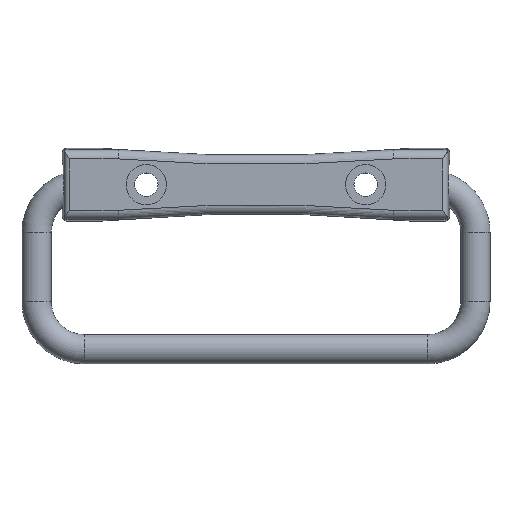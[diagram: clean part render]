
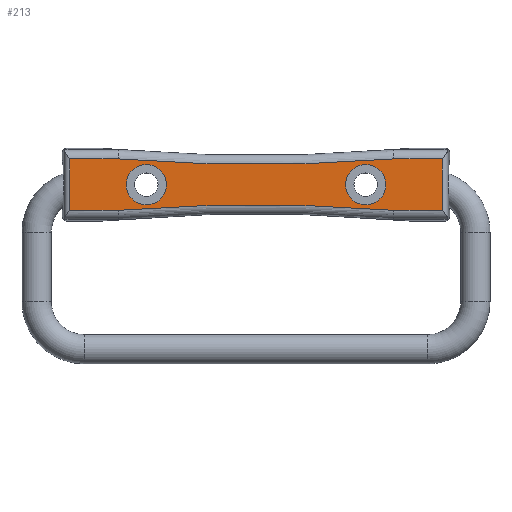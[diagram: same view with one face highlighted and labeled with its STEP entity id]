
A CAD part, top view. The second image highlights one B-rep face of the part: STEP entity #213.
In plain terms, the highlighted planar face has unit normal (0, 0, 1).
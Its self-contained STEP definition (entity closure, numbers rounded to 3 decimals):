
#213 = ADVANCED_FACE( '', ( #324, #325, #326 ), #327, .T. );
#324 = FACE_BOUND( '', #458, .T. );
#325 = FACE_BOUND( '', #459, .T. );
#326 = FACE_OUTER_BOUND( '', #460, .T. );
#327 = PLANE( '', #461 );
#458 = EDGE_LOOP( '', ( #858 ) );
#459 = EDGE_LOOP( '', ( #859 ) );
#460 = EDGE_LOOP( '', ( #860, #861, #862, #863, #864, #865, #866, #867 ) );
#461 = AXIS2_PLACEMENT_3D( '', #868, #869, #870 );
#858 = ORIENTED_EDGE( '', *, *, #1050, .F. );
#859 = ORIENTED_EDGE( '', *, *, #1047, .F. );
#860 = ORIENTED_EDGE( '', *, *, #1034, .F. );
#861 = ORIENTED_EDGE( '', *, *, #1038, .T. );
#862 = ORIENTED_EDGE( '', *, *, #1037, .T. );
#863 = ORIENTED_EDGE( '', *, *, #945, .F. );
#864 = ORIENTED_EDGE( '', *, *, #1031, .T. );
#865 = ORIENTED_EDGE( '', *, *, #1039, .F. );
#866 = ORIENTED_EDGE( '', *, *, #934, .F. );
#867 = ORIENTED_EDGE( '', *, *, #938, .F. );
#868 = CARTESIAN_POINT( '', ( -51.5, -1.5, 16. ) );
#869 = DIRECTION( '', ( 0., 0., 1. ) );
#870 = DIRECTION( '', ( 1., 0., 0. ) );
#934 = EDGE_CURVE( '', #1069, #1063, #1071, .T. );
#938 = EDGE_CURVE( '', #1077, #1069, #1079, .T. );
#945 = EDGE_CURVE( '', #1090, #1082, #1092, .T. );
#1031 = EDGE_CURVE( '', #1090, #1235, #1237, .T. );
#1034 = EDGE_CURVE( '', #1239, #1077, #1241, .T. );
#1037 = EDGE_CURVE( '', #1242, #1082, #1245, .T. );
#1038 = EDGE_CURVE( '', #1239, #1242, #1246, .T. );
#1039 = EDGE_CURVE( '', #1063, #1235, #1247, .T. );
#1047 = EDGE_CURVE( '', #1259, #1259, #1260, .T. );
#1050 = EDGE_CURVE( '', #1265, #1265, #1266, .T. );
#1063 = VERTEX_POINT( '', #1289 );
#1069 = VERTEX_POINT( '', #1307 );
#1071 = LINE( '', #1324, #1325 );
#1077 = VERTEX_POINT( '', #1334 );
#1079 = CIRCLE( '', #1351, 465.75 );
#1082 = VERTEX_POINT( '', #1357 );
#1090 = VERTEX_POINT( '', #1386 );
#1092 = CIRCLE( '', #1403, 465.75 );
#1235 = VERTEX_POINT( '', #1744 );
#1237 = LINE( '', #1757, #1758 );
#1239 = VERTEX_POINT( '', #1761 );
#1241 = LINE( '', #1774, #1775 );
#1242 = VERTEX_POINT( '', #1776 );
#1245 = LINE( '', #1791, #1792 );
#1246 = LINE( '', #1793, #1794 );
#1247 = LINE( '', #1795, #1796 );
#1259 = VERTEX_POINT( '', #1828 );
#1260 = CIRCLE( '', #1829, 5.5 );
#1265 = VERTEX_POINT( '', #1834 );
#1266 = CIRCLE( '', #1835, 5.5 );
#1289 = CARTESIAN_POINT( '', ( -50.993, -17.027, 16. ) );
#1307 = CARTESIAN_POINT( '', ( -37.684, -17.027, 16. ) );
#1324 = CARTESIAN_POINT( '', ( 62.5, -17.027, 16. ) );
#1325 = VECTOR( '', #1862, 1000. );
#1334 = CARTESIAN_POINT( '', ( 37.684, -17.027, 16. ) );
#1351 = AXIS2_PLACEMENT_3D( '', #1866, #1867, #1868 );
#1357 = CARTESIAN_POINT( '', ( 37.684, -2.973, 16. ) );
#1386 = CARTESIAN_POINT( '', ( -37.684, -2.973, 16. ) );
#1403 = AXIS2_PLACEMENT_3D( '', #1872, #1873, #1874 );
#1744 = CARTESIAN_POINT( '', ( -50.993, -2.973, 16. ) );
#1757 = CARTESIAN_POINT( '', ( 62.5, -2.973, 16. ) );
#1758 = VECTOR( '', #2003, 1000. );
#1761 = CARTESIAN_POINT( '', ( 50.993, -17.027, 16. ) );
#1774 = CARTESIAN_POINT( '', ( 62.5, -17.027, 16. ) );
#1775 = VECTOR( '', #2005, 1000. );
#1776 = CARTESIAN_POINT( '', ( 50.993, -2.973, 16. ) );
#1791 = CARTESIAN_POINT( '', ( 62.5, -2.973, 16. ) );
#1792 = VECTOR( '', #2007, 1000. );
#1793 = CARTESIAN_POINT( '', ( 50.993, -20., 16. ) );
#1794 = VECTOR( '', #2008, 1000. );
#1795 = CARTESIAN_POINT( '', ( -50.993, -20., 16. ) );
#1796 = VECTOR( '', #2009, 1000. );
#1828 = CARTESIAN_POINT( '', ( -24.5, -10., 16. ) );
#1829 = AXIS2_PLACEMENT_3D( '', #2021, #2022, #2023 );
#1834 = CARTESIAN_POINT( '', ( 35.5, -10., 16. ) );
#1835 = AXIS2_PLACEMENT_3D( '', #2030, #2031, #2032 );
#1862 = DIRECTION( '', ( -1., 0., 0. ) );
#1866 = CARTESIAN_POINT( '', ( 0., -481.25, 16. ) );
#1867 = DIRECTION( '', ( 0., 0., 1. ) );
#1868 = DIRECTION( '', ( 1., 0., 0. ) );
#1872 = CARTESIAN_POINT( '', ( 0., 461.25, 16. ) );
#1873 = DIRECTION( '', ( 0., 0., 1. ) );
#1874 = DIRECTION( '', ( 1., 0., 0. ) );
#2003 = DIRECTION( '', ( -1., 0., 0. ) );
#2005 = DIRECTION( '', ( -1., 0., 0. ) );
#2007 = DIRECTION( '', ( -1., 0., 0. ) );
#2008 = DIRECTION( '', ( 0., 1., 0. ) );
#2009 = DIRECTION( '', ( 0., 1., 0. ) );
#2021 = CARTESIAN_POINT( '', ( -30., -10., 16. ) );
#2022 = DIRECTION( '', ( 0., 0., 1. ) );
#2023 = DIRECTION( '', ( 1., 0., 0. ) );
#2030 = CARTESIAN_POINT( '', ( 30., -10., 16. ) );
#2031 = DIRECTION( '', ( 0., 0., 1. ) );
#2032 = DIRECTION( '', ( 1., 0., 0. ) );
